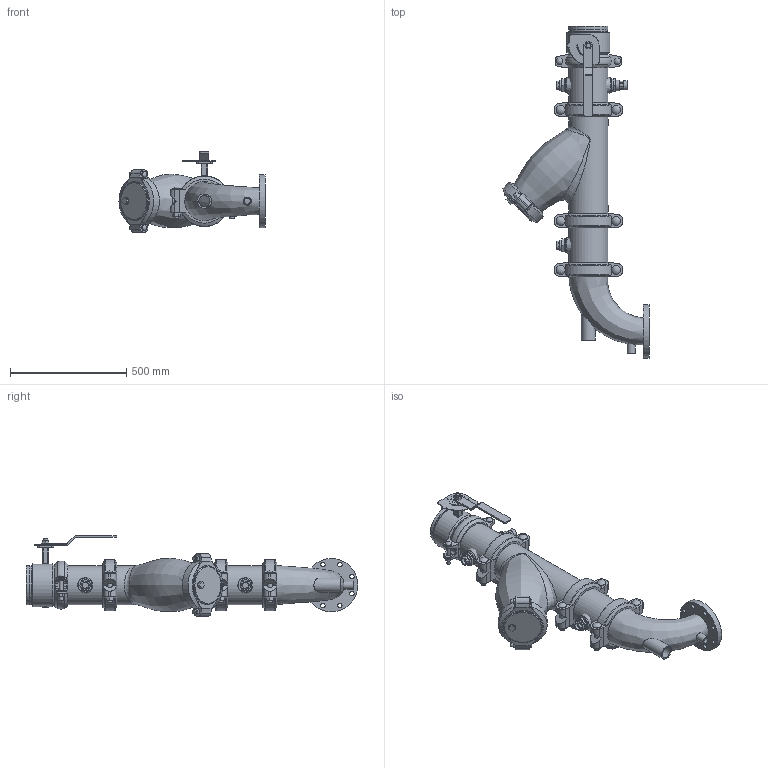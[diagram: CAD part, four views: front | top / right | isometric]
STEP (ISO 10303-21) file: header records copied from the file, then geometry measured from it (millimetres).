
FILE_DESCRIPTION(/* description */ ('VIC SVI PUMP DROP HORZ S/382 (OGSxFLG) (S/924-0.75)','CAx-IF Rec.Pracs.---Representation and Presentation of Product Manufacturing Information (PMI)---4.0---2014-10-13'),/* implementation_level */ '2;1');
FILE_NAME(/* name */ 'C:\Users\Vjadhav\AppData\Roaming\Autodesk\ApplicationPlugins\Victaulic.Temp\A115\Series 382 (OGSxFLG)_924 (0.75)_06.0x04.0 (150x100).stp',/* time_stamp */ '2022-03-17T12:19:10+06:00',/* author */ ('kkamble'),/* organization */ ('Victaulic'),/* preprocessor_version */ 'ST-DEVELOPER v17.2',/* originating_system */ 'Autodesk Inventor 2019',/* authorisation */ '');
FILE_SCHEMA (('AP242_MANAGED_MODEL_BASED_3D_ENGINEERING_MIM_LF { 1 0 10303 442 1 1 4 }'));
Length unit declared in the file: inch
Products named in the file (13): 382_924 (0.75)-06.0x04.0; PIPE-06.0; 107N-06.0; 732-06.0; 732-06.0_1; 07-06.0; 732-06.0_2; PIPE-06.1; 761-06.0; 924-04.0x0.75; 177N-06.0; 923-04.0x0.75; R100F-06.0x04.0
Assembly tree (15 placements, depth 3):
  382_924 (0.75)-06.0x04.0
    PIPE-06.0
    107N-06.0
    732-06.0
      732-06.0_1
      07-06.0
      732-06.0_2
    177N-06.0  x3
    PIPE-06.1
    761-06.0
    924-04.0x0.75
    923-04.0x0.75  x2
    R100F-06.0x04.0
Bounding box: 627.13 x 1425.58 x 347.22 mm (x, y, z)
Volume: 13463232.8 mm3; surface area: 2827663.8 mm2
Topology: 14 solids, 17 shells, 876 faces, 2256 edges, 1502 vertices
Faces by surface type: plane 488, cylinder 291, bspline 30, torus 30, cone 27, sphere 10
Full cylindrical faces by diameter (mm): 4.826 x10, 8.636 x4, 15.875 x8, 19.05 x16, 22.86 x1, 26.67 x4, 27.381 x4, 31.75 x1, 34.29 x1, 37.694 x6, 38.608 x1, 45.974 x6, 48.26 x1, 55.118 x1, 55.626 x3, 60.96 x1, 102.26 x1, 139.7 x1, 153.797 x1, 154.051 x5, 155.575 x5, 163.957 x11, 168.275 x26, 185.42 x1, 228.6 x1
Entity records: 25678 total; most frequent: CARTESIAN_POINT 8571, DIRECTION 3463, ORIENTED_EDGE 3240, EDGE_CURVE 1620, AXIS2_PLACEMENT_3D 1323, VERTEX_POINT 1084, LINE 817, VECTOR 817
